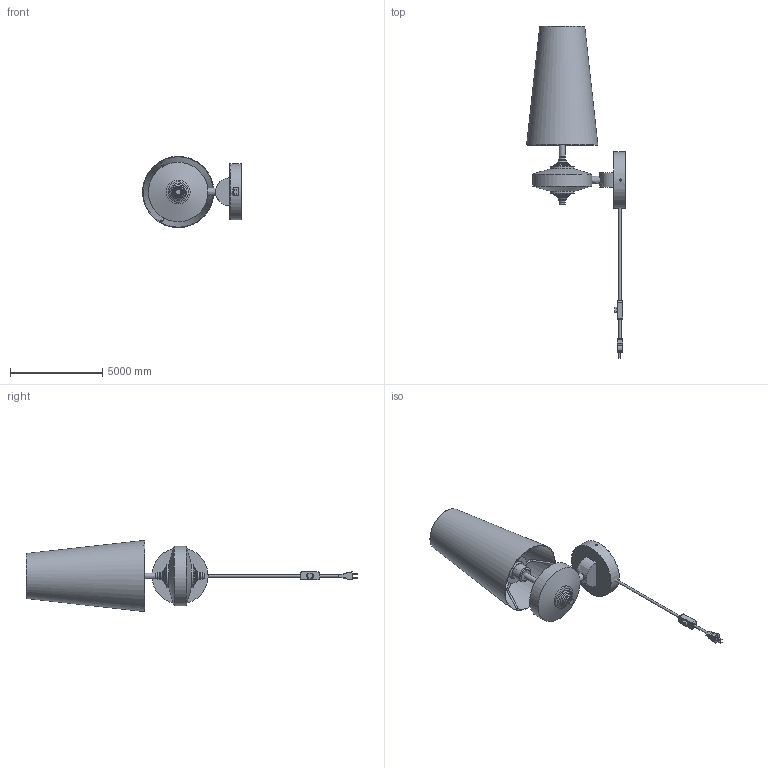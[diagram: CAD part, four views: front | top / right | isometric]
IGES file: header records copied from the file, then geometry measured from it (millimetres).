
Global section: file name: Hour Rho Plug-in Wall Lamp-1head; native system: AutoCAD 2022 - 简体中文 (Simplified Chinese),62HAuto; preprocessor: desk Translation Framework DWG producer (atf_dwg_producer); organization: unknown; date: 20251121.173048; units: inch
Bounding box: 5362.3 x 18019.16 x 3865.14 mm (x, y, z)
Volume: 12740412745.9 mm3; surface area: 225417023.1 mm2
Topology: 22 solids, 22 shells, 173 faces, 406 edges, 281 vertices
Faces by surface type: bspline 173
